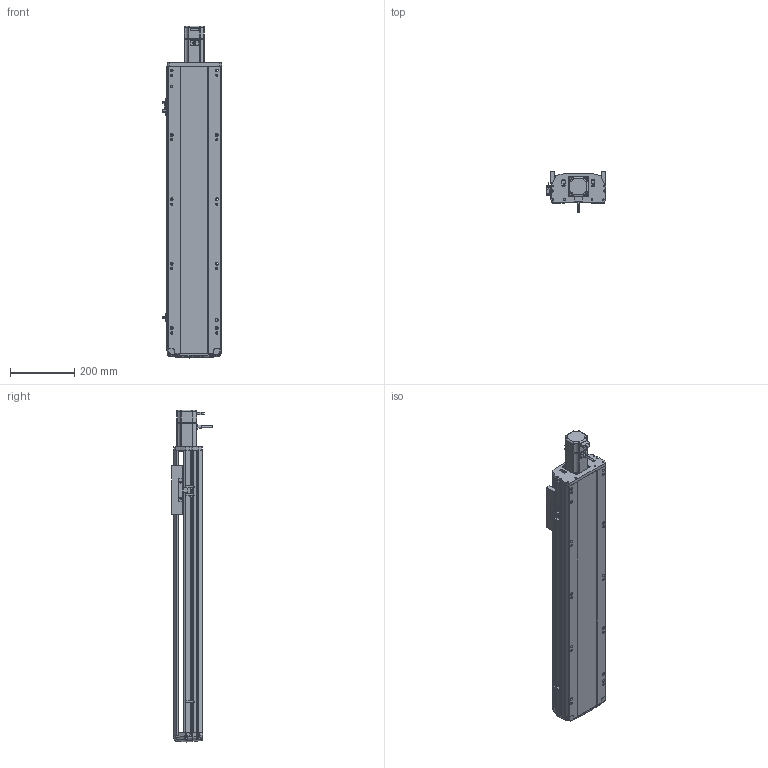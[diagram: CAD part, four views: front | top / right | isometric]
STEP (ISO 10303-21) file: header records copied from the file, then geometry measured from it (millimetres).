
FILE_DESCRIPTION (( 'STEP AP214' ), '1' );
FILE_NAME ('RTH17-XX-650-E-M40-C4（方程式）.STEP', '2025-10-24T05:40:52', ( '' ), ( '' ), 'SwSTEP 2.0', 'SolidWorks 2018', '' );
FILE_SCHEMA (( 'AUTOMOTIVE_DESIGN' ));
Length unit declared in the file: millimetre
Products named in the file (9): N_RTH17-E-008-P40电机板^RTH17-XX-XX-E-M40-C4（方程式）; N_OMRON EE-SX672 換覜ん^RTH17-XX-XX-E-M40-C4ㄗ源最宒ㄘ; N_RTH17-E-011底座^RTH17-XX-XX-E-M40-C4（方程式）; N_RTH17-GY-001P^RTH17-XX-XX-E-M40-C4（方程式）; N_RTH-BL-012 感应片(外置)^RTH17-XX-XX-E-M40-C4（方程式）; N_M40^RTH17-XX-XX-E-M40-C4（方程式）; N_RTH17-E-004丝杆螺母连接座^RTH17-XX-XX-E-M40-C4（方程式）; N_RTH17-E-007上盖^RTH17-XX-XX-E-M40-C4（方程式）; RTH17-XX-650-E-M40-C4（方程式）
Assembly tree (10 placements, depth 2):
  RTH17-XX-650-E-M40-C4（方程式）
    N_RTH17-E-011底座^RTH17-XX-XX-E-M40-C4（方程式）
    N_RTH17-E-007上盖^RTH17-XX-XX-E-M40-C4（方程式）
    N_RTH17-E-008-P40电机板^RTH17-XX-XX-E-M40-C4（方程式）
    N_OMRON EE-SX672 換覜ん^RTH17-XX-XX-E-M40-C4ㄗ源最宒ㄘ  x3
    N_RTH-BL-012 感应片(外置)^RTH17-XX-XX-E-M40-C4（方程式）
    N_RTH17-E-004丝杆螺母连接座^RTH17-XX-XX-E-M40-C4（方程式）
    N_RTH17-GY-001P^RTH17-XX-XX-E-M40-C4（方程式）
    N_M40^RTH17-XX-XX-E-M40-C4（方程式）
Bounding box: 183.5 x 127 x 1030.69 mm (x, y, z)
Volume: 7422944.4 mm3; surface area: 1004960.1 mm2
Topology: 9 solids, 11 shells, 1665 faces, 4657 edges, 3038 vertices
Faces by surface type: plane 827, cylinder 471, bspline 330, cone 28, torus 9
Entity records: 48797 total; most frequent: CARTESIAN_POINT 19524, ORIENTED_EDGE 6338, DIRECTION 5265, EDGE_CURVE 3173, VERTEX_POINT 2074, LINE 1777, VECTOR 1777, AXIS2_PLACEMENT_3D 1744
